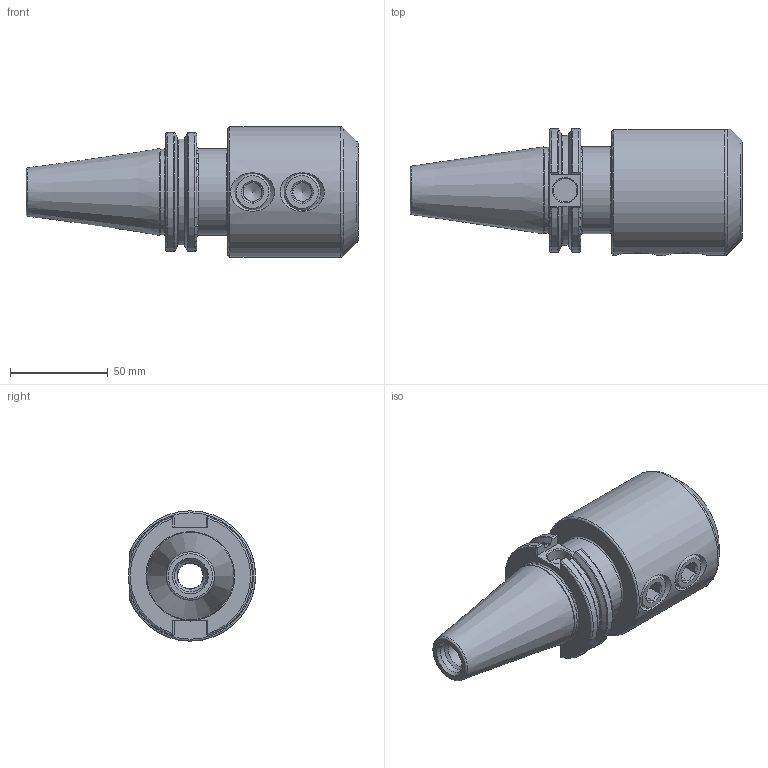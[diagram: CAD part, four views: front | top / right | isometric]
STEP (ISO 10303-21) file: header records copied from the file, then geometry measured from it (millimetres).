
FILE_DESCRIPTION(/* description */ (''),/* implementation_level */ '2;1');
FILE_NAME(/* name */ 'I:\00.2022最新版图纸\SLA---侧固式铣刀柄\侧固刀柄三维模型\CAT40-SLA38.1-101.6.stp',/* time_stamp */ '2022-07-20T10:52:30+08:00',/* author */ ('Administrator'),/* organization */ (''),/* preprocessor_version */ 'ST-DEVELOPER v18.1',/* originating_system */ 'Autodesk Inventor 2022',/* authorisation */ '');
FILE_SCHEMA (('AUTOMOTIVE_DESIGN { 1 0 10303 214 3 1 1 }'));
Length unit declared in the file: millimetre
Products named in the file (3): CAT40-SLA38.1-101.6; CAT40-SLA38.1-101.6_1; 3-4-16UNF-15.875
Assembly tree (3 placements, depth 2):
  CAT40-SLA38.1-101.6
    CAT40-SLA38.1-101.6_1
    3-4-16UNF-15.875  x2
Bounding box: 169.85 x 64.97 x 66.67 mm (x, y, z)
Volume: 272755.3 mm3; surface area: 51015.8 mm2
Topology: 3 solids, 3 shells, 145 faces, 367 edges, 234 vertices
Faces by surface type: plane 57, cylinder 26, cone 26, torus 20, bspline 16
Full cylindrical faces by diameter (mm): 6 x2, 9.5 x2, 12 x1, 13 x1, 13.5 x1, 16.281 x1, 17.4 x2, 19.05 x2, 19.5 x2, 32 x1, 38.1 x1, 43.85 x1, 44.45 x1
Entity records: 4879 total; most frequent: CARTESIAN_POINT 1822, ORIENTED_EDGE 654, DIRECTION 570, EDGE_CURVE 327, AXIS2_PLACEMENT_3D 217, VERTEX_POINT 210, EDGE_LOOP 141, LINE 136
